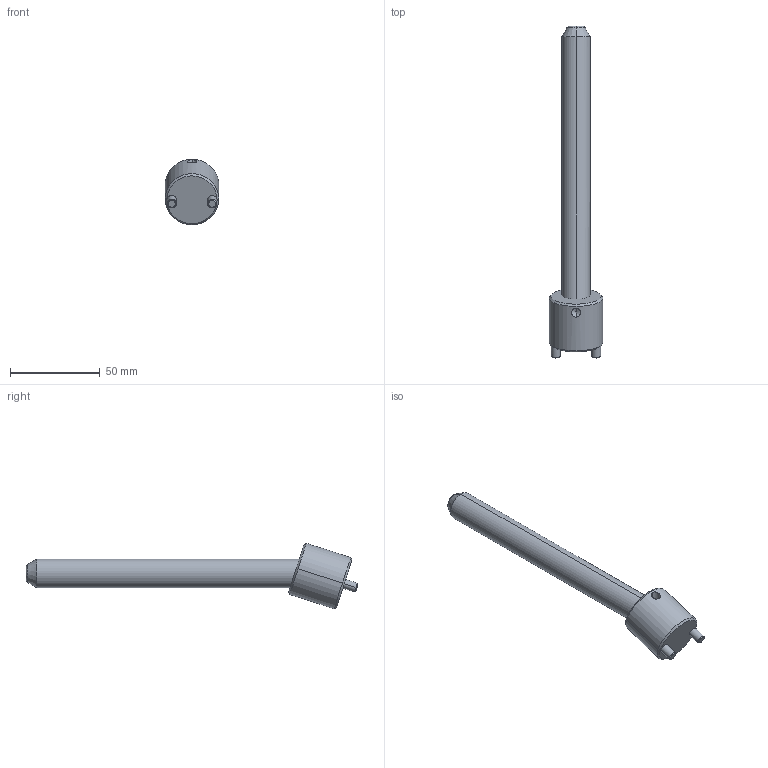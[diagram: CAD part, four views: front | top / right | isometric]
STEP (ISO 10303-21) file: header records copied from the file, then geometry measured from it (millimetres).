
FILE_DESCRIPTION(('CATIA V5 STEP Exchange'),'2;1');
FILE_NAME('C:\Users\Raffaele\Desktop\3D BOLEX\3D FILES CF BOLEX\19-INCLINED ASSEMBLY REF_CI\CI1816150.stp','2019-06-24T07:43:44+00:00',('none'),('none'),'CATIA Version 5 Release 20 GA (IN-10)','CATIA V5 STEP AP203','none');
FILE_SCHEMA(('CONFIG_CONTROL_DESIGN'));
Length unit declared in the file: millimetre
Products named in the file (1): CI1816150
Assembly tree (2 placements, depth 2):
  CI1816150
    #58
    #587
Bounding box: 30 x 185.31 x 36.57 mm (x, y, z)
Volume: 49414.7 mm3; surface area: 14467.7 mm2
Topology: 2 solids, 2 shells, 39 faces, 82 edges, 47 vertices
Faces by surface type: cone 14, cylinder 14, plane 7, torus 4
Entity records: 1482 total; most frequent: CARTESIAN_POINT 621, ORIENTED_EDGE 160, DIRECTION 146, EDGE_CURVE 80, AXIS2_PLACEMENT_3D 73, VERTEX_POINT 47, EDGE_LOOP 43, ADVANCED_FACE 39
